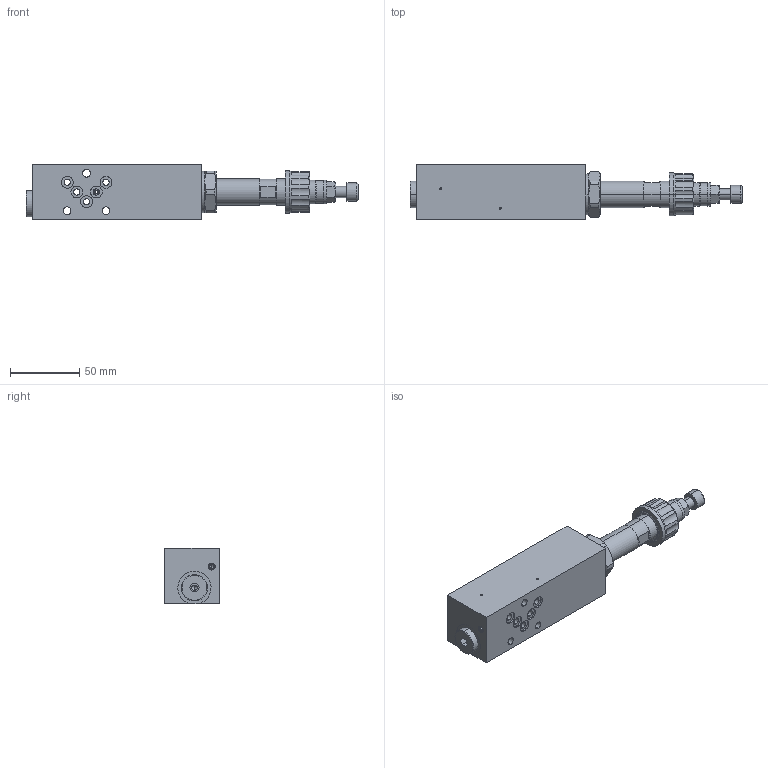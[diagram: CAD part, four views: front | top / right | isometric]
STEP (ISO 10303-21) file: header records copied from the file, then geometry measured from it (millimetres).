
FILE_DESCRIPTION (( 'STEP AP214' ), '1' );
FILE_NAME ('0215988.STEP', '2017-03-31T06:08:13', ( '' ), ( '' ), 'SwSTEP 2.0', 'SolidWorks 2016', '' );
FILE_SCHEMA (( 'AUTOMOTIVE_DESIGN' ));
Length unit declared in the file: millimetre
Products named in the file (1): 0215988
Bounding box: 239.5 x 39.5 x 40 mm (x, y, z)
Volume: 225380.1 mm3; surface area: 39739.6 mm2
Topology: 4 solids, 8 shells, 535 faces, 1335 edges, 848 vertices
Faces by surface type: plane 253, cylinder 136, cone 82, bspline 38, torus 18, sphere 8
Entity records: 23227 total; most frequent: CARTESIAN_POINT 4695, ORIENTED_EDGE 2634, DIRECTION 2626, EDGE_CURVE 1317, AXIS2_PLACEMENT_3D 975, VERTEX_POINT 848, LINE 676, VECTOR 676
